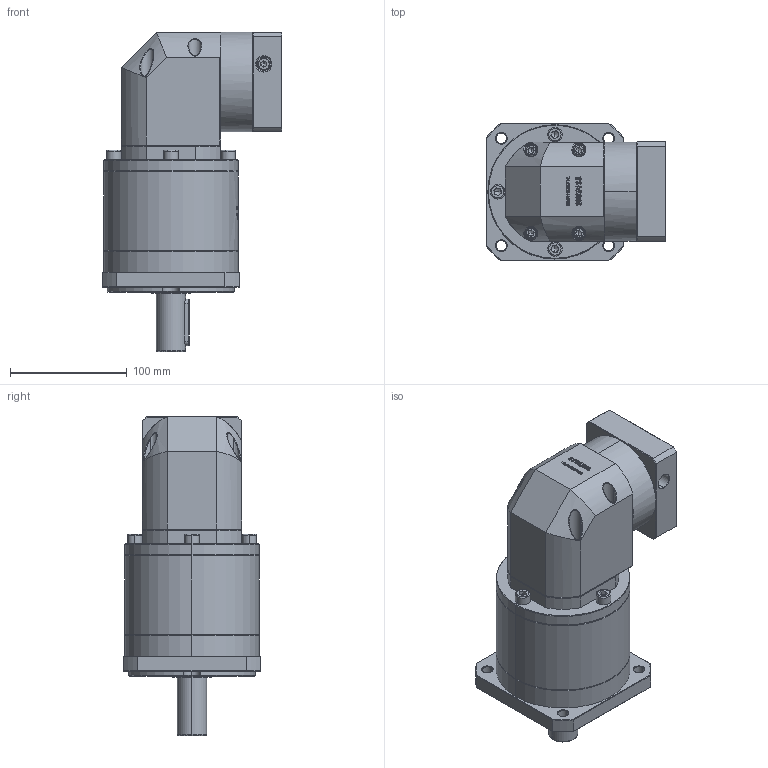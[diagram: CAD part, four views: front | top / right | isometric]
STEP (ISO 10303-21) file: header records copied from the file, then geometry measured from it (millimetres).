
FILE_DESCRIPTION (( 'STEP AP214' ), '1' );
FILE_NAME ('ZFR120A-D25-L3-16-80-100-M6.step', '2023-03-08T05:47:06', ( '' ), ( '' ), 'SwSTEP 2.0', 'SolidWorks 2016', '' );
FILE_SCHEMA (( 'AUTOMOTIVE_DESIGN' ));
Length unit declared in the file: millimetre
Products named in the file (1): ZFR120A-D25-L3-16-80-100-M6
Bounding box: 154.1 x 118 x 273.5 mm (x, y, z)
Volume: 2149308.6 mm3; surface area: 181030.8 mm2
Topology: 6 solids, 6 shells, 3003 faces, 7970 edges, 5115 vertices
Faces by surface type: plane 1576, bspline 625, cylinder 455, cone 333, torus 14
Entity records: 163638 total; most frequent: CARTESIAN_POINT 62036, ORIENTED_EDGE 15848, DIRECTION 11689, EDGE_CURVE 7924, VERTEX_POINT 5115, LINE 4923, VECTOR 4923, AXIS2_PLACEMENT_3D 3383
